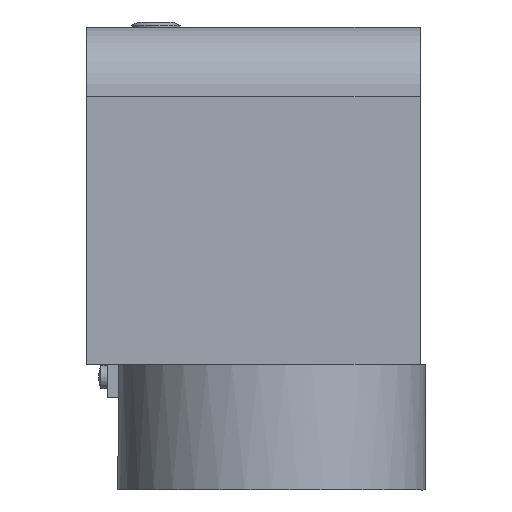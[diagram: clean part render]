
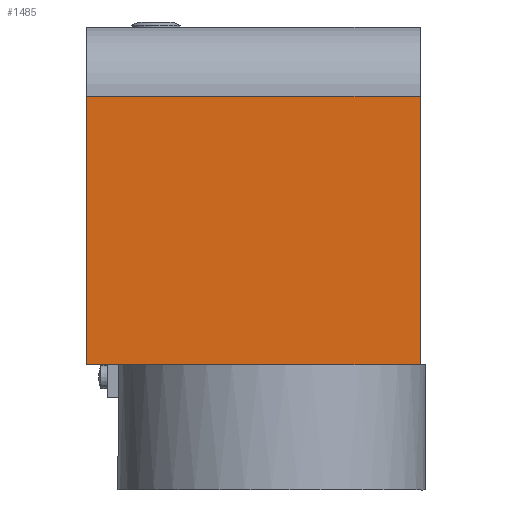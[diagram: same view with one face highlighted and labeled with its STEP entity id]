
A CAD part, front view. The second image highlights one B-rep face of the part: STEP entity #1485.
In plain terms, the highlighted planar face has unit normal (0, -1, 0).
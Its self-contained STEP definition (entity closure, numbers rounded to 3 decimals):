
#98=LINE('',#2305,#206);
#101=LINE('',#2314,#209);
#162=LINE('',#2510,#270);
#166=LINE('',#2516,#274);
#206=VECTOR('',#1854,10.);
#209=VECTOR('',#1865,10.);
#270=VECTOR('',#2058,10.);
#274=VECTOR('',#2066,10.);
#405=FACE_OUTER_BOUND('',#534,.T.);
#534=EDGE_LOOP('',(#1322,#1323,#1324,#1325));
#664=VERTEX_POINT('',#2302);
#665=VERTEX_POINT('',#2304);
#667=VERTEX_POINT('',#2313);
#736=VERTEX_POINT('',#2508);
#808=EDGE_CURVE('',#665,#664,#98,.T.);
#813=EDGE_CURVE('',#665,#667,#101,.T.);
#910=EDGE_CURVE('',#664,#736,#162,.T.);
#914=EDGE_CURVE('',#667,#736,#166,.T.);
#1322=ORIENTED_EDGE('',*,*,#910,.T.);
#1323=ORIENTED_EDGE('',*,*,#914,.F.);
#1324=ORIENTED_EDGE('',*,*,#813,.F.);
#1325=ORIENTED_EDGE('',*,*,#808,.T.);
#1381=PLANE('',#1683);
#1485=ADVANCED_FACE('',(#405),#1381,.F.);
#1683=AXIS2_PLACEMENT_3D('',#2583,#2158,#2159);
#1854=DIRECTION('',(0.,0.,1.));
#1865=DIRECTION('',(-1.,0.,0.));
#2058=DIRECTION('',(-1.,0.,0.));
#2066=DIRECTION('',(0.,0.,1.));
#2158=DIRECTION('center_axis',(0.,1.,0.));
#2159=DIRECTION('ref_axis',(-1.,0.,0.));
#2302=CARTESIAN_POINT('',(43.,-74.4,114.));
#2304=CARTESIAN_POINT('',(43.,-74.4,36.3));
#2305=CARTESIAN_POINT('',(43.,-74.4,37.3));
#2313=CARTESIAN_POINT('',(-53.5,-74.4,36.3));
#2314=CARTESIAN_POINT('',(42.,-74.4,36.3));
#2508=CARTESIAN_POINT('',(-53.5,-74.4,114.));
#2510=CARTESIAN_POINT('',(-5.25,-74.4,114.));
#2516=CARTESIAN_POINT('',(-53.5,-74.4,37.3));
#2583=CARTESIAN_POINT('Origin',(42.,-74.4,37.3));
